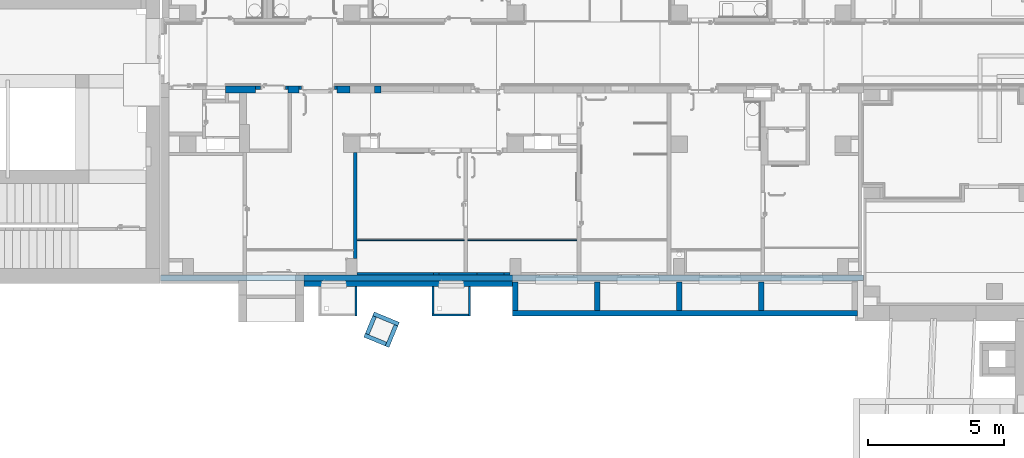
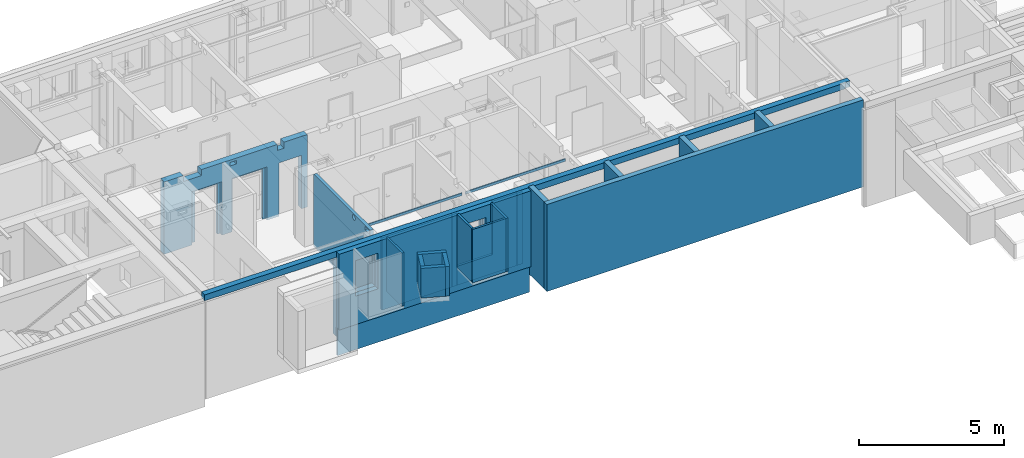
# One storey, part 11 of 84: 27 walls, 20 openings.
"""IFC4 building model written with IfcOpenShell, lengths in metres."""

from ifc_helpers import new_model, entity, si_unit, converted_unit, derived_unit, frame, frame_2d, origin, origin_with_axes, place, context, subcontext, project, spatial, polyline, rectangle, outline, extrude, clip, bounded_halfspace, material, layer, layer_set, layer_usage, element, save


model = new_model("IFC4")

# Units and contexts
model_context = context("Model", 3, precision=1e-05, world=origin())
body_context = subcontext(model_context, "Body", "Model", "MODEL_VIEW")
ifc_project = project(units=[si_unit("LENGTHUNIT", "METRE"), si_unit("AREAUNIT", "SQUARE_METRE"), si_unit("VOLUMEUNIT", "CUBIC_METRE"), si_unit("MASSUNIT", "GRAM", prefix="KILO"), converted_unit("PLANEANGLEUNIT", "DEGREE", entity("IfcPlaneAngleMeasure", 0.0174532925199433), si_unit("PLANEANGLEUNIT", "RADIAN"), dimensions=[0, 0, 0, 0, 0, 0, 0]), derived_unit("THERMALTRANSMITTANCEUNIT", [(si_unit("POWERUNIT", "WATT"), 1), (si_unit("THERMODYNAMICTEMPERATUREUNIT", "KELVIN"), -1), (si_unit("LENGTHUNIT", "METRE"), -2)]), derived_unit("VOLUMETRICFLOWRATEUNIT", [(si_unit("LENGTHUNIT", "METRE"), 3), (converted_unit("TIMEUNIT", "hour", entity("IfcTimeMeasure", 3600.0), si_unit("TIMEUNIT", "SECOND"), dimensions=[0, 0, 1, 0, 0, 0, 0]), -1), (si_unit("LENGTHUNIT", "METRE"), -1)])], contexts=[model_context])

# Site, building, storey
site_placement = place(None, origin())
site = spatial("IfcSite", under=ifc_project, at=site_placement, Name="3. ASŘ", CompositionType="ELEMENT")
building_placement = place(site_placement, origin())
building = spatial("IfcBuilding", under=site, at=building_placement, Name="Pavilon C", CompositionType="ELEMENT")
storey_placement = place(building_placement, frame((0.0, 0.0, -3.3)))
storey = spatial("IfcBuildingStorey", under=building, at=storey_placement, Name="Půdorys 1.PP", CompositionType="ELEMENT", Elevation=-3.3)

# Wall, opening
ifc_material_1 = material(Name="ZELEZOBETONOVÁ KCE")
ifc_layer_1 = layer(ifc_material_1, 0.2)
ifc_layer_set_1 = layer_set([ifc_layer_1])
ifc_layer_usage_1 = layer_usage(ifc_layer_set_1, "AXIS2", "POSITIVE", -0.1)
wall_1_placement = place(storey_placement, frame((20.9, 0.35499999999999, -0.4), z_axis=(0.0, 0.0, 1.0), x_axis=(0.0, -1.0, 0.0)))
wall_1 = element("IfcWall", 1, at=wall_1_placement, inside=storey, material=ifc_layer_usage_1, Name="ZELEZOBETONOVÁ KCE", context=body_context, shape_type="SweptSolid", body=[
    extrude(rectangle(XDim=1.06, YDim=0.2, at=frame_2d((0.53, 0.1), x_axis=(1.0, 0.0))), origin_with_axes(), (0.0, 0.0, 1.0), 3.67),
])
opening_1_placement = place(wall_1_placement, frame((0.78, 0.2, 0.8), z_axis=(0.0, -1.0, 0.0), x_axis=(0.0, 0.0, 1.0)))
element("IfcOpeningElement", 2, at=opening_1_placement, cuts=wall_1, Name="Prostup stěnou", ObjectType="Opening", context=body_context, shape_type="SweptSolid", body=[
    extrude(outline(polyline([(0.0, 0.4), (0.6, 0.4), (0.6, 0.0), (0.0, 0.0), (0.0, 0.4)])), origin_with_axes(), (0.0, 0.0, 1.0), 0.2),
])

ifc_material_2 = material(Name="ZELEZOBETONOVÁ KCE")
ifc_layer_2 = layer(ifc_material_2, 0.2)
ifc_layer_set_2 = layer_set([ifc_layer_2])
ifc_layer_usage_2 = layer_usage(ifc_layer_set_2, "AXIS2", "POSITIVE", -0.1)
wall_2_placement = place(storey_placement, frame((17.9, 0.354999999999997, -0.4), z_axis=(0.0, 0.0, 1.0), x_axis=(0.0, -1.0, 0.0)))
wall_2 = element("IfcWall", 3, at=wall_2_placement, inside=storey, material=ifc_layer_usage_2, Name="ZELEZOBETONOVÁ KCE", context=body_context, shape_type="SweptSolid", body=[
    extrude(rectangle(XDim=1.06, YDim=0.2, at=frame_2d((0.53, 0.1), x_axis=(1.0, 0.0))), origin_with_axes(), (0.0, 0.0, 1.0), 3.67),
])
opening_2_placement = place(wall_2_placement, frame((0.78, 0.2, 0.8), z_axis=(0.0, -1.0, 0.0), x_axis=(0.0, 0.0, 1.0)))
element("IfcOpeningElement", 4, at=opening_2_placement, cuts=wall_2, Name="Prostup stěnou", ObjectType="Opening", context=body_context, shape_type="SweptSolid", body=[
    extrude(outline(polyline([(0.0, 0.4), (0.6, 0.4), (0.6, 0.0), (0.0, 0.0), (0.0, 0.4)])), origin_with_axes(), (0.0, 0.0, 1.0), 0.2),
])

ifc_material_3 = material(Name="ZELEZOBETONOVÁ KCE")
ifc_layer_3 = layer(ifc_material_3, 0.2)
ifc_layer_set_3 = layer_set([ifc_layer_3])
ifc_layer_usage_3 = layer_usage(ifc_layer_set_3, "AXIS2", "POSITIVE", -0.1)
wall_3_placement = place(storey_placement, frame((14.9, 0.354999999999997, -0.4), z_axis=(0.0, 0.0, 1.0), x_axis=(0.0, -1.0, 0.0)))
wall_3 = element("IfcWall", 5, at=wall_3_placement, inside=storey, material=ifc_layer_usage_3, Name="ZELEZOBETONOVÁ KCE", context=body_context, shape_type="SweptSolid", body=[
    extrude(rectangle(XDim=1.06, YDim=0.2, at=frame_2d((0.53, 0.1), x_axis=(1.0, 0.0))), origin_with_axes(), (0.0, 0.0, 1.0), 3.67),
])
opening_3_placement = place(wall_3_placement, frame((0.78, 0.2, 0.8), z_axis=(0.0, -1.0, 0.0), x_axis=(0.0, 0.0, 1.0)))
element("IfcOpeningElement", 6, at=opening_3_placement, cuts=wall_3, Name="Prostup stěnou", ObjectType="Opening", context=body_context, shape_type="SweptSolid", body=[
    extrude(outline(polyline([(0.0, 0.4), (0.6, 0.4), (0.6, 0.0), (0.0, 0.0), (0.0, 0.4)])), origin_with_axes(), (0.0, 0.0, 1.0), 0.2),
])

ifc_material_4 = material(Name="PÓROBETONOVÉ ZDIVO")
ifc_layer_4 = layer(ifc_material_4, 0.1)
ifc_layer_set_4 = layer_set([ifc_layer_4])
ifc_layer_usage_4 = layer_usage(ifc_layer_set_4, "AXIS2", "POSITIVE", 0.0)
wall_4_placement = place(storey_placement, frame((9.20000000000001, 0.600000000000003, -0.1)))
wall_4 = element("IfcWall", 7, at=wall_4_placement, inside=storey, material=ifc_layer_usage_4, Name="PÓROBETONOVÉ ZDIVO", context=body_context, shape_type="SweptSolid", body=[
    extrude(rectangle(XDim=2.375, YDim=0.1, at=frame_2d((1.1875, 0.05), x_axis=(1.0, 0.0))), origin_with_axes(), (0.0, 0.0, 1.0), 3.05),
])
opening_4_placement = place(wall_4_placement, frame((1.4, 0.1, 0.8), z_axis=(0.0, -1.0, 0.0), x_axis=(0.0, 0.0, 1.0)))
element("IfcOpeningElement", 8, at=opening_4_placement, cuts=wall_4, Name="Okenní otvor", ObjectType="Opening", context=body_context, shape_type="SweptSolid", body=[
    extrude(outline(polyline([(0.0, 1.4), (2.25, 1.4), (2.25, 0.0), (0.0, 0.0), (0.0, 1.4)])), origin_with_axes(), (0.0, 0.0, 1.0), 0.1),
])

# Walls
ifc_material_5 = material(Name="ZELEZOBETONOVÁ KCE")
ifc_layer_5 = layer(ifc_material_5, 0.2)
ifc_layer_set_5 = layer_set([ifc_layer_5])
ifc_layer_usage_5 = layer_usage(ifc_layer_set_5, "AXIS2", "POSITIVE", -0.1)
wall_5_placement = place(storey_placement, frame((11.9, 0.354999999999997, -0.4), z_axis=(0.0, 0.0, 1.0), x_axis=(0.0, -1.0, 0.0)))
element("IfcWall", 9, at=wall_5_placement, inside=storey, material=ifc_layer_usage_5, Name="ZELEZOBETONOVÁ KCE", context=body_context, shape_type="SweptSolid", body=[
    extrude(rectangle(XDim=1.06, YDim=0.2, at=frame_2d((0.53, 0.1), x_axis=(1.0, 0.0))), origin_with_axes(), (0.0, 0.0, 1.0), 3.67),
])
ifc_material_6 = material(Name="ZELEZOBETONOVÁ KCE")
ifc_layer_6 = layer(ifc_material_6, 0.2)
ifc_layer_set_6 = layer_set([ifc_layer_6])
ifc_layer_usage_6 = layer_usage(ifc_layer_set_6, "AXIS2", "POSITIVE", 0.0)
wall_6_placement = place(storey_placement, frame((24.525, -0.70500000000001, -0.4), z_axis=(0.0, 0.0, 1.0), x_axis=(-1.0, 5.76313474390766e-16, 0.0)))
element("IfcWall", 10, at=wall_6_placement, inside=storey, material=ifc_layer_usage_6, Name="ZELEZOBETONOVÁ KCE", context=body_context, shape_type="SweptSolid", body=[
    extrude(rectangle(XDim=12.625, YDim=0.2, at=frame_2d((6.3125, 0.1), x_axis=(1.0, 0.0))), origin_with_axes(), (0.0, 0.0, 1.0), 3.67),
])
ifc_material_7 = material(Name="ZELEZOBETONOVÁ KCE")
ifc_layer_7 = layer(ifc_material_7, 0.149999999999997)
ifc_layer_set_7 = layer_set([ifc_layer_7])
ifc_layer_usage_7 = layer_usage(ifc_layer_set_7, "AXIS2", "POSITIVE", 0.0)
wall_7_placement = place(storey_placement, frame((6.76867172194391, -0.886282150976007, 1.7), z_axis=(0.0, 0.0, 1.0), x_axis=(0.924305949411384, -0.381652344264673, 0.0)))
element("IfcWall", 11, at=wall_7_placement, inside=storey, material=ifc_layer_usage_7, Name="ZELEZOBETONOVÁ KCE", context=body_context, shape_type="SweptSolid", body=[
    extrude(rectangle(XDim=1.00000000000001, YDim=0.149999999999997, at=frame_2d((0.500000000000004, 0.0749999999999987), x_axis=(1.0, 0.0))), origin_with_axes(), (0.0, 0.0, 1.0), 1.25),
])
ifc_material_8 = material(Name="ZELEZOBETONOVÁ KCE")
ifc_layer_8 = layer(ifc_material_8, 0.149999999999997)
ifc_layer_set_8 = layer_set([ifc_layer_8])
ifc_layer_usage_8 = layer_usage(ifc_layer_set_8, "AXIS2", "POSITIVE", 0.0)
wall_8_placement = place(storey_placement, frame((7.5543317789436, -1.21068664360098, 1.7), z_axis=(0.0, 0.0, 1.0), x_axis=(-0.381652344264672, -0.924305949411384, 0.0)))
element("IfcWall", 12, at=wall_8_placement, inside=storey, material=ifc_layer_usage_8, Name="ZELEZOBETONOVÁ KCE", context=body_context, shape_type="SweptSolid", body=[
    extrude(rectangle(XDim=0.850000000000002, YDim=0.149999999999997, at=frame_2d((0.425000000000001, 0.0749999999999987), x_axis=(1.0, 0.0))), origin_with_axes(), (0.0, 0.0, 1.0), 1.25),
])
ifc_material_9 = material(Name="ZELEZOBETONOVÁ KCE")
ifc_layer_9 = layer(ifc_material_9, 0.149999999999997)
ifc_layer_set_9 = layer_set([ifc_layer_9])
ifc_layer_usage_9 = layer_usage(ifc_layer_set_9, "AXIS2", "POSITIVE", 0.0)
wall_9_placement = place(storey_placement, frame((7.28717513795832, -1.85770080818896, 1.7), z_axis=(0.0, 0.0, 1.0), x_axis=(-0.924305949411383, 0.381652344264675, 0.0)))
element("IfcWall", 13, at=wall_9_placement, inside=storey, material=ifc_layer_usage_9, Name="ZELEZOBETONOVÁ KCE", context=body_context, shape_type="SweptSolid", body=[
    extrude(rectangle(XDim=0.850000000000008, YDim=0.149999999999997, at=frame_2d((0.425000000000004, 0.0749999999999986), x_axis=(1.0, 0.0))), origin_with_axes(), (0.0, 0.0, 1.0), 1.25),
])
ifc_material_10 = material(Name="ZELEZOBETONOVÁ KCE")
ifc_layer_10 = layer(ifc_material_10, 0.149999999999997)
ifc_layer_set_10 = layer_set([ifc_layer_10])
ifc_layer_usage_10 = layer_usage(ifc_layer_set_10, "AXIS2", "POSITIVE", 0.0)
wall_10_placement = place(storey_placement, frame((6.64016097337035, -1.59054416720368, 1.7), z_axis=(0.0, 0.0, 1.0), x_axis=(0.381652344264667, 0.924305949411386, 0.0)))
element("IfcWall", 14, at=wall_10_placement, inside=storey, material=ifc_layer_usage_10, Name="ZELEZOBETONOVÁ KCE", context=body_context, shape_type="SweptSolid", body=[
    extrude(rectangle(XDim=0.700000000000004, YDim=0.149999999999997, at=frame_2d((0.350000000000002, 0.0749999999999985), x_axis=(1.0, 0.0))), origin_with_axes(), (0.0, 0.0, 1.0), 1.25),
])
ifc_material_11 = material(Name="PÓROBETONOVÉ ZDIVO")
ifc_layer_11 = layer(ifc_material_11, 0.1)
ifc_layer_set_11 = layer_set([ifc_layer_11])
ifc_layer_usage_11 = layer_usage(ifc_layer_set_11, "AXIS2", "POSITIVE", 0.0)
wall_11_placement = place(storey_placement, frame((6.2, 0.600000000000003, -0.1)))
element("IfcWall", 15, at=wall_11_placement, inside=storey, material=ifc_layer_usage_11, Name="PÓROBETONOVÉ ZDIVO", context=body_context, shape_type="SweptSolid", body=[
    extrude(rectangle(XDim=2.8, YDim=0.1, at=frame_2d((1.4, 0.05), x_axis=(1.0, 0.0))), origin_with_axes(), (0.0, 0.0, 1.0), 3.05),
])

# Wall, openings
ifc_material_12 = material(Name="ZDIVO Z CDm")
ifc_layer_12 = layer(ifc_material_12, 0.25)
ifc_layer_set_12 = layer_set([ifc_layer_12])
ifc_layer_usage_12 = layer_usage(ifc_layer_set_12, "AXIS2", "POSITIVE", 0.0)
wall_12_placement = place(storey_placement, frame((7.07500000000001, 7.525, -0.1), z_axis=(0.0, 0.0, 1.0), x_axis=(-1.0, 0.0, 0.0)))
wall_12 = element("IfcWall", 16, at=wall_12_placement, inside=storey, material=ifc_layer_usage_12, Name="ZDIVO Z CDm", context=body_context, shape_type="SweptSolid", body=[
    extrude(rectangle(XDim=5.70500000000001, YDim=0.25, at=frame_2d((2.8525, 0.125), x_axis=(1.0, 0.0))), origin_with_axes(), (0.0, 0.0, 1.0), 3.05),
])
opening_5_placement = place(wall_12_placement, frame((3.40500000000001, 0.0, 0.0), z_axis=(0.0, 1.0, 0.0), x_axis=(0.0, 0.0, 1.0)))
element("IfcOpeningElement", 17, at=opening_5_placement, cuts=wall_12, Name="Dveřní otvor", ObjectType="Opening", context=body_context, shape_type="SweptSolid", body=[
    extrude(outline(polyline([(0.0, 1.2), (2.25, 1.2), (2.25, 0.0), (0.0, 0.0), (0.0, 1.2)])), origin_with_axes(), (0.0, 0.0, 1.0), 0.25),
])
opening_6_placement = place(wall_12_placement, frame((4.22500000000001, 1.72803993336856e-14, 2.8), z_axis=(0.0, 1.0, 0.0), x_axis=(0.0, 0.0, 1.0)))
element("IfcOpeningElement", 18, at=opening_6_placement, cuts=wall_12, Name="ZTI+VZT", ObjectType="Opening", context=body_context, shape_type="SweptSolid", body=[
    extrude(outline(polyline([(0.0, 0.72), (0.25, 0.72), (0.25, 0.0), (0.0, 0.0), (0.0, 0.72)])), origin_with_axes(), (0.0, 0.0, 1.0), 0.25),
])
opening_7_placement = place(wall_12_placement, frame((0.230000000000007, 0.0, 0.0), z_axis=(0.0, 1.0, 0.0), x_axis=(0.0, 0.0, 1.0)))
element("IfcOpeningElement", 19, at=opening_7_placement, cuts=wall_12, Name="Dveřní otvor", ObjectType="Opening", context=body_context, shape_type="SweptSolid", body=[
    extrude(outline(polyline([(0.0, 0.9), (2.25, 0.9), (2.25, 0.0), (0.0, 0.0), (0.0, 0.9)])), origin_with_axes(), (0.0, 0.0, 1.0), 0.25),
])
opening_8_placement = place(wall_12_placement, frame((0.932252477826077, 0.0, 2.8), z_axis=(0.0, 1.0, 0.0), x_axis=(0.0, 0.0, 1.0)))
element("IfcOpeningElement", 20, at=opening_8_placement, cuts=wall_12, Name="VZT", ObjectType="Opening", context=body_context, shape_type="SweptSolid", body=[
    extrude(outline(polyline([(0.0, 0.26), (0.25, 0.26), (0.25, 0.0), (0.0, 0.0), (0.0, 0.26)])), origin_with_axes(), (0.0, 0.0, 1.0), 0.25),
])
opening_9_placement = place(wall_12_placement, frame((2.83000000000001, 4.54747350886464e-15, 2.8), z_axis=(0.0, 1.0, 0.0), x_axis=(0.0, 0.0, 1.0)))
element("IfcOpeningElement", 21, at=opening_9_placement, cuts=wall_12, Name="ELE", ObjectType="Opening", context=body_context, shape_type="SweptSolid", body=[
    extrude(outline(polyline([(0.0, 0.25), (0.15, 0.25), (0.15, 0.0), (0.0, 0.0), (0.0, 0.25)])), origin_with_axes(), (0.0, 0.0, 1.0), 0.25),
])
opening_10_placement = place(wall_12_placement, frame((1.60500000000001, 0.0, 0.0), z_axis=(0.0, 1.0, 0.0), x_axis=(0.0, 0.0, 1.0)))
element("IfcOpeningElement", 22, at=opening_10_placement, cuts=wall_12, Name="Dveřní otvor", ObjectType="Opening", context=body_context, shape_type="SweptSolid", body=[
    extrude(outline(polyline([(0.0, 1.4), (2.25, 1.4), (2.25, 0.0), (0.0, 0.0), (0.0, 1.4)])), origin_with_axes(), (0.0, 0.0, 1.0), 0.25),
])

ifc_material_13 = material(Name="ZELEZOBETONOVÁ KCE")
ifc_layer_13 = layer(ifc_material_13, 0.2)
ifc_material_14 = material(Name="LIGNOPOR")
ifc_layer_14 = layer(ifc_material_14, 0.025)
ifc_material_15 = material(Name="PÓROBETONOVÉ ZDIVO")
ifc_layer_15 = layer(ifc_material_15, 0.08)
ifc_layer_set_13 = layer_set([ifc_layer_13, ifc_layer_14, ifc_layer_15])
ifc_layer_usage_13 = layer_usage(ifc_layer_set_13, "AXIS2", "POSITIVE", 0.0)
wall_13_placement = place(storey_placement, frame((11.9, 0.600000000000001, -1.15), z_axis=(0.0, 0.0, 1.0), x_axis=(-1.0, 2.82359466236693e-16, 0.0)))
wall_13 = element("IfcWall", 23, at=wall_13_placement, inside=storey, material=ifc_layer_usage_13, Name="ZELEZOBETONOVÁ KCE", context=body_context, shape_type="Clipping", body=[
    clip(clip(clip(extrude(rectangle(XDim=7.65, YDim=0.305, at=frame_2d((3.825, 0.1525), x_axis=(1.0, 0.0))), origin_with_axes(), (0.0, 0.0, 1.0), 4.1), bounded_halfspace(frame((3.825, 0.1, 0.750000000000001), z_axis=(0.0, 0.0, 1.0), x_axis=(2.82359466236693e-16, -1.0, 0.0)), True, origin_with_axes(), polyline([(-5.64718932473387e-17, 0.2), (0.0, 0.0), (7.65, 0.0), (7.65, 0.2), (-5.64718932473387e-17, 0.2)]))), bounded_halfspace(frame((3.825, 0.2125, 1.15), z_axis=(0.0, 0.0, 1.0), x_axis=(2.82359466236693e-16, -1.0, 0.0)), True, origin_with_axes(), polyline([(-6.35308799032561e-17, 0.225), (-5.64718932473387e-17, 0.2), (7.65, 0.2), (7.65, 0.225), (-6.35308799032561e-17, 0.225)]))), bounded_halfspace(frame((3.825, 0.265, 1.15), z_axis=(0.0, 0.0, -1.0), x_axis=(1.0, 7.43051226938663e-18, 0.0)), True, origin_with_axes(), polyline([(-6.35308799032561e-17, 0.225), (7.65, 0.225), (7.65, 0.305), (-8.61196372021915e-17, 0.305), (-6.35308799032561e-17, 0.225)]))),
])
opening_11_placement = place(wall_13_placement, frame((7.0, 0.2, 2.35), z_axis=(0.0, -1.0, 0.0), x_axis=(0.0, 0.0, 1.0)))
element("IfcOpeningElement", 24, at=opening_11_placement, cuts=wall_13, Name="Okenní otvor", ObjectType="Opening", context=body_context, shape_type="SweptSolid", body=[
    extrude(outline(polyline([(0.0, 0.9), (1.5, 0.9), (1.5, 0.0), (0.0, 0.0), (0.0, 0.9)])), origin_with_axes(), (0.0, 0.0, 1.0), 0.2),
    extrude(outline(polyline([(0.0, 0.9), (1.5, 0.9), (1.5, 0.0), (0.0, 0.0), (0.0, 0.9)])), frame((0.0, 6.31593542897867e-18, -0.025), z_axis=(0.0, 0.0, 1.0), x_axis=(1.0, 0.0, 0.0)), (0.0, 0.0, 1.0), 0.025),
    extrude(outline(polyline([(0.0, 0.9), (1.5, 0.9), (1.5, 0.0), (0.0, 0.0), (0.0, 0.9)])), frame((0.0, 2.65269288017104e-17, -0.105), z_axis=(0.0, 0.0, 1.0), x_axis=(1.0, 0.0, 0.0)), (0.0, 0.0, 1.0), 0.08),
])
opening_12_placement = place(wall_13_placement, frame((7.0, 0.2, 2.35), z_axis=(0.0, -1.0, 0.0), x_axis=(0.0, 0.0, 1.0)))
element("IfcOpeningElement", 25, at=opening_12_placement, cuts=wall_13, Name="Okenní otvor", ObjectType="Opening", context=body_context, shape_type="SweptSolid", body=[
    extrude(outline(polyline([(0.0, 0.9), (1.5, 0.9), (1.5, 0.0), (0.0, 0.0), (0.0, 0.9)])), origin_with_axes(), (0.0, 0.0, 1.0), 0.2),
    extrude(outline(polyline([(0.0, 0.9), (1.5, 0.9), (1.5, 0.0), (0.0, 0.0), (0.0, 0.9)])), frame((0.0, 6.31593542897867e-18, -0.025), z_axis=(0.0, 0.0, 1.0), x_axis=(1.0, 0.0, 0.0)), (0.0, 0.0, 1.0), 0.025),
    extrude(outline(polyline([(0.0, 0.9), (1.5, 0.9), (1.5, 0.0), (0.0, 0.0), (0.0, 0.9)])), frame((0.0, 2.65269288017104e-17, -0.105), z_axis=(0.0, 0.0, 1.0), x_axis=(1.0, 0.0, 0.0)), (0.0, 0.0, 1.0), 0.08),
])
opening_13_placement = place(wall_13_placement, frame((2.69999999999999, 0.2, 2.35), z_axis=(0.0, -1.0, 0.0), x_axis=(0.0, 0.0, 1.0)))
element("IfcOpeningElement", 26, at=opening_13_placement, cuts=wall_13, Name="Okenní otvor", ObjectType="Opening", context=body_context, shape_type="SweptSolid", body=[
    extrude(outline(polyline([(0.0, 0.9), (1.5, 0.9), (1.5, 0.0), (0.0, 0.0), (0.0, 0.9)])), origin_with_axes(), (0.0, 0.0, 1.0), 0.2),
    extrude(outline(polyline([(0.0, 0.9), (1.5, 0.9), (1.5, 0.0), (0.0, 0.0), (0.0, 0.9)])), frame((0.0, 6.31593542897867e-18, -0.025), z_axis=(0.0, 0.0, 1.0), x_axis=(1.0, 0.0, 0.0)), (0.0, 0.0, 1.0), 0.025),
    extrude(outline(polyline([(0.0, 0.9), (1.5, 0.9), (1.5, 0.0), (0.0, 0.0), (0.0, 0.9)])), frame((0.0, 2.65269288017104e-17, -0.105), z_axis=(0.0, 0.0, 1.0), x_axis=(1.0, 0.0, 0.0)), (0.0, 0.0, 1.0), 0.08),
])

# Wall
ifc_material_16 = material(Name="ZELEZOBETONOVÁ KCE")
ifc_layer_16 = layer(ifc_material_16, 0.200000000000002)
ifc_material_17 = material(Name="LIGNOPOR")
ifc_layer_17 = layer(ifc_material_17, 0.025)
ifc_layer_set_14 = layer_set([ifc_layer_16, ifc_layer_17])
ifc_layer_usage_14 = layer_usage(ifc_layer_set_14, "AXIS2", "POSITIVE", 0.0)
wall_14_placement = place(storey_placement, frame((24.75, 0.599999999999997, 2.95), z_axis=(0.0, 0.0, 1.0), x_axis=(-1.0, 2.82561460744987e-16, 0.0)))
element("IfcWall", 27, at=wall_14_placement, inside=storey, material=ifc_layer_usage_14, context=body_context, shape_type="SweptSolid", body=[
    extrude(outline(polyline([(-25.55, -7.21944532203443e-15), (-25.55, -0.0250000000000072), (-25.75, -0.0250000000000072), (-25.75, -0.225000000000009), (6.35763286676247e-17, -0.225000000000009), (2.03984345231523e-30, -7.21911419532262e-15), (-25.55, -7.21944532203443e-15)])), frame((25.75, 0.225000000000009, 0.0), z_axis=(0.0, 0.0, 1.0), x_axis=(1.0, 0.0, 0.0)), (0.0, 0.0, 1.0), 0.25),
])

# Wall, openings
ifc_material_18 = material(Name="PERIMETR")
ifc_layer_18 = layer(ifc_material_18, 0.2)
ifc_layer_set_15 = layer_set([ifc_layer_18])
ifc_layer_usage_15 = layer_usage(ifc_layer_set_15, "AXIS2", "POSITIVE", 0.0)
wall_15_placement = place(storey_placement, frame((11.9, 0.375000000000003, 0.0), z_axis=(0.0, 0.0, 1.0), x_axis=(-1.0, 0.0, 0.0)))
wall_15 = element("IfcWall", 28, at=wall_15_placement, inside=storey, material=ifc_layer_usage_15, Name="PERIMETR", context=body_context, shape_type="SweptSolid", body=[
    extrude(rectangle(XDim=7.65, YDim=0.2, at=frame_2d((3.825, 0.1), x_axis=(1.0, 0.0))), origin_with_axes(), (0.0, 0.0, 1.0), 3.2),
])
opening_14_placement = place(wall_15_placement, frame((2.69999999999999, 0.2, 1.2), z_axis=(0.0, -1.0, 0.0), x_axis=(0.0, 0.0, 1.0)))
element("IfcOpeningElement", 29, at=opening_14_placement, cuts=wall_15, Name="Okenní otvor", ObjectType="Opening", context=body_context, shape_type="SweptSolid", body=[
    extrude(outline(polyline([(0.0, 0.9), (1.5, 0.9), (1.5, 0.0), (0.0, 0.0), (0.0, 0.9)])), origin_with_axes(), (0.0, 0.0, 1.0), 0.2),
])
opening_15_placement = place(wall_15_placement, frame((7.0, 0.2, 1.2), z_axis=(0.0, -1.0, 0.0), x_axis=(0.0, 0.0, 1.0)))
element("IfcOpeningElement", 30, at=opening_15_placement, cuts=wall_15, Name="Okenní otvor", ObjectType="Opening", context=body_context, shape_type="SweptSolid", body=[
    extrude(outline(polyline([(0.0, 0.9), (1.5, 0.9), (1.5, 0.0), (0.0, 0.0), (0.0, 0.9)])), origin_with_axes(), (0.0, 0.0, 1.0), 0.2),
])

# Walls
ifc_material_19 = material(Name="YTONG 100")
ifc_layer_19 = layer(ifc_material_19, 0.1)
ifc_layer_set_16 = layer_set([ifc_layer_19])
ifc_layer_usage_16 = layer_usage(ifc_layer_set_16, "AXIS2", "POSITIVE", 0.0)
wall_16_placement = place(storey_placement, frame((11.575, 0.600000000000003, -0.1), z_axis=(0.0, 0.0, 1.0), x_axis=(1.0, -7.07384768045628e-15, 0.0)))
element("IfcWall", 31, at=wall_16_placement, inside=storey, material=ifc_layer_usage_16, Name="YTONG 100", context=body_context, shape_type="SweptSolid", body=[
    extrude(rectangle(XDim=0.224999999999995, YDim=0.1, at=frame_2d((0.112499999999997, 0.05), x_axis=(1.0, 0.0))), origin_with_axes(), (0.0, 0.0, 1.0), 3.05),
])
ifc_material_20 = material(Name="POHLEDOVY BETON")
ifc_layer_20 = layer(ifc_material_20, 0.08)
ifc_layer_set_17 = layer_set([ifc_layer_20])
ifc_layer_usage_17 = layer_usage(ifc_layer_set_17, "AXIS2", "POSITIVE", 0.0)
wall_17_placement = place(storey_placement, frame((10.275, 0.175000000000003, 1.0), z_axis=(0.0, 0.0, 1.0), x_axis=(0.0, -1.0, 0.0)))
element("IfcWall", 32, at=wall_17_placement, inside=storey, material=ifc_layer_usage_17, Name="STĚNA ANGLICKÉHO DVORKU", context=body_context, shape_type="SweptSolid", body=[
    extrude(rectangle(XDim=1.08, YDim=0.08, at=frame_2d((0.54, 0.04), x_axis=(1.0, 0.0))), origin_with_axes(), (0.0, 0.0, 1.0), 2.25),
])
ifc_material_21 = material(Name="YTONG 100")
ifc_layer_21 = layer(ifc_material_21, 0.1)
ifc_layer_set_18 = layer_set([ifc_layer_21])
ifc_layer_usage_18 = layer_usage(ifc_layer_set_18, "AXIS2", "POSITIVE", 0.0)
wall_18_placement = place(storey_placement, frame((9.20000000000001, 0.700000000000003, -0.1), z_axis=(0.0, 0.0, 1.0), x_axis=(-1.0, 0.0, 0.0)))
element("IfcWall", 33, at=wall_18_placement, inside=storey, material=ifc_layer_usage_18, Name="YTONG 100", context=body_context, shape_type="SweptSolid", body=[
    extrude(rectangle(XDim=0.2, YDim=0.1, at=frame_2d((0.1, 0.05), x_axis=(1.0, 0.0))), origin_with_axes(), (0.0, 0.0, 1.0), 3.05),
])
ifc_material_22 = material(Name="POHLEDOVY BETON")
ifc_layer_22 = layer(ifc_material_22, 0.08)
ifc_layer_set_19 = layer_set([ifc_layer_22])
ifc_layer_usage_19 = layer_usage(ifc_layer_set_19, "AXIS2", "POSITIVE", 0.0)
wall_19_placement = place(storey_placement, frame((8.94500000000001, -0.904999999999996, 1.0)))
element("IfcWall", 34, at=wall_19_placement, inside=storey, material=ifc_layer_usage_19, Name="STĚNA ANGLICKÉHO DVORKU", context=body_context, shape_type="SweptSolid", body=[
    extrude(rectangle(XDim=1.33, YDim=0.08, at=frame_2d((0.665, 0.04), x_axis=(1.0, 0.0))), origin_with_axes(), (0.0, 0.0, 1.0), 2.25),
])
ifc_material_23 = material(Name="POHLEDOVY BETON")
ifc_layer_23 = layer(ifc_material_23, 0.08)
ifc_layer_set_20 = layer_set([ifc_layer_23])
ifc_layer_usage_20 = layer_usage(ifc_layer_set_20, "AXIS2", "POSITIVE", 0.0)
wall_20_placement = place(storey_placement, frame((8.94500000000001, 0.175000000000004, 1.0), z_axis=(0.0, 0.0, 1.0), x_axis=(0.0, -1.0, 0.0)))
element("IfcWall", 35, at=wall_20_placement, inside=storey, material=ifc_layer_usage_20, Name="STĚNA ANGLICKÉHO DVORKU", context=body_context, shape_type="SweptSolid", body=[
    extrude(rectangle(XDim=1.0, YDim=0.08, at=frame_2d((0.5, 0.04), x_axis=(1.0, 0.0))), origin_with_axes(), (0.0, 0.0, 1.0), 2.25),
])
ifc_material_24 = material(Name="POHLEDOVY BETON")
ifc_layer_24 = layer(ifc_material_24, 0.08)
ifc_layer_set_21 = layer_set([ifc_layer_24])
ifc_layer_usage_21 = layer_usage(ifc_layer_set_21, "AXIS2", "POSITIVE", 0.0)
wall_21_placement = place(storey_placement, frame((6.125, 0.175000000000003, 1.0), z_axis=(0.0, 0.0, 1.0), x_axis=(0.0, -1.0, 0.0)))
element("IfcWall", 36, at=wall_21_placement, inside=storey, material=ifc_layer_usage_21, Name="STĚNA ANGLICKÉHO DVORKU", context=body_context, shape_type="SweptSolid", body=[
    extrude(rectangle(XDim=1.08, YDim=0.08, at=frame_2d((0.54, 0.04), x_axis=(1.0, 0.0))), origin_with_axes(), (0.0, 0.0, 1.0), 2.25),
])

# Wall, opening
ifc_material_25 = material(Name="YTONG 125")
ifc_layer_25 = layer(ifc_material_25, 0.125)
ifc_layer_set_22 = layer_set([ifc_layer_25])
ifc_layer_usage_22 = layer_usage(ifc_layer_set_22, "AXIS2", "POSITIVE", 0.0)
wall_22_placement = place(storey_placement, frame((3.67, 7.525, -0.1), z_axis=(0.0, 0.0, 1.0), x_axis=(-1.0, 0.0, 0.0)))
wall_22 = element("IfcWall", 37, at=wall_22_placement, inside=storey, material=ifc_layer_usage_22, Name="YTONG 125", context=body_context, shape_type="SweptSolid", body=[
    extrude(rectangle(XDim=1.2, YDim=0.125, at=frame_2d((0.6, 0.0625), x_axis=(1.0, 0.0))), origin_with_axes(), (0.0, 0.0, 1.0), 2.25),
])
opening_16_placement = place(wall_22_placement, frame((1.0, 0.125, 0.0), z_axis=(0.0, -1.0, 0.0), x_axis=(0.0, 0.0, 1.0)))
element("IfcOpeningElement", 38, at=opening_16_placement, cuts=wall_22, Name="Dveřní otvor", ObjectType="Opening", context=body_context, shape_type="SweptSolid", body=[
    extrude(outline(polyline([(0.0, 0.9), (2.12, 0.9), (2.12, 0.0), (0.0, 0.0), (0.0, 0.9)])), origin_with_axes(), (0.0, 0.0, 1.0), 0.125),
])

ifc_material_26 = material(Name="YTONG 125")
ifc_layer_26 = layer(ifc_material_26, 0.125)
ifc_layer_set_23 = layer_set([ifc_layer_26])
ifc_layer_usage_23 = layer_usage(ifc_layer_set_23, "AXIS2", "POSITIVE", 0.0)
wall_23_placement = place(storey_placement, frame((5.47, 7.525, -0.1), z_axis=(0.0, 0.0, 1.0), x_axis=(-1.0, 0.0, 0.0)))
wall_23 = element("IfcWall", 39, at=wall_23_placement, inside=storey, material=ifc_layer_usage_23, Name="YTONG 125", context=body_context, shape_type="SweptSolid", body=[
    extrude(rectangle(XDim=1.4, YDim=0.125, at=frame_2d((0.7, 0.0625), x_axis=(1.0, 0.0))), origin_with_axes(), (0.0, 0.0, 1.0), 2.25),
])
opening_17_placement = place(wall_23_placement, frame((0.1, 0.0, 0.0), z_axis=(0.0, 1.0, 0.0), x_axis=(0.0, 0.0, 1.0)))
element("IfcOpeningElement", 40, at=opening_17_placement, cuts=wall_23, Name="Dveřní otvor", ObjectType="Opening", context=body_context, shape_type="SweptSolid", body=[
    extrude(outline(polyline([(0.0, 1.2), (2.12, 1.2), (2.12, 0.0), (0.0, 0.0), (0.0, 1.2)])), origin_with_axes(), (0.0, 0.0, 1.0), 0.125),
])

ifc_material_27 = material(Name="YTONG 100")
ifc_layer_27 = layer(ifc_material_27, 0.1)
ifc_layer_set_24 = layer_set([ifc_layer_27])
ifc_layer_usage_24 = layer_usage(ifc_layer_set_24, "AXIS2", "POSITIVE", 0.0)
wall_24_placement = place(storey_placement, frame((9.20000000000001, 0.600000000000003, 0.7)))
wall_24 = element("IfcWall", 41, at=wall_24_placement, inside=storey, material=ifc_layer_usage_24, Name="YTONG 100", context=body_context, shape_type="SweptSolid", body=[
    extrude(rectangle(XDim=1.4, YDim=0.1, at=frame_2d((0.7, 0.05), x_axis=(1.0, 0.0))), origin_with_axes(), (0.0, 0.0, 1.0), 2.25),
])
opening_18_placement = place(wall_24_placement, frame((0.9, 0.1, 0.5), z_axis=(0.0, -1.0, 0.0), x_axis=(0.0, 0.0, 1.0)))
element("IfcOpeningElement", 42, at=opening_18_placement, cuts=wall_24, Name="Okenní otvor", ObjectType="Opening", context=body_context, shape_type="SweptSolid", body=[
    extrude(outline(polyline([(0.0, 0.9), (1.75, 0.9), (1.75, 0.0), (0.0, 0.0), (0.0, 0.9)])), origin_with_axes(), (0.0, 0.0, 1.0), 0.1),
])

# Walls
ifc_material_28 = material(Name="SDK SVISLA CAST PODHLEDU")
ifc_layer_28 = layer(ifc_material_28, 0.0400000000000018)
ifc_layer_set_25 = layer_set([ifc_layer_28])
ifc_layer_usage_25 = layer_usage(ifc_layer_set_25, "AXIS2", "POSITIVE", 0.0)
wall_25_placement = place(storey_placement, frame((10.25, 1.86, 2.6)))
element("IfcWall", 43, at=wall_25_placement, inside=storey, material=ifc_layer_usage_25, Name="SDK SVISLA CAST PODHLEDU", context=body_context, shape_type="SweptSolid", body=[
    extrude(rectangle(XDim=4.0, YDim=0.0400000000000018, at=frame_2d((2.0, 0.0200000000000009), x_axis=(1.0, 0.0))), origin_with_axes(), (0.0, 0.0, 1.0), 0.1),
])
ifc_material_29 = material(Name="SDK SVISLA CAST PODHLEDU")
ifc_layer_29 = layer(ifc_material_29, 0.0400000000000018)
ifc_layer_set_26 = layer_set([ifc_layer_29])
ifc_layer_usage_26 = layer_usage(ifc_layer_set_26, "AXIS2", "POSITIVE", 0.0)
wall_26_placement = place(storey_placement, frame((10.125, 1.9, 2.6), z_axis=(0.0, 0.0, 1.0), x_axis=(-1.0, 0.0, 0.0)))
element("IfcWall", 44, at=wall_26_placement, inside=storey, material=ifc_layer_usage_26, Name="SDK SVISLA CAST PODHLEDU", context=body_context, shape_type="SweptSolid", body=[
    extrude(rectangle(XDim=3.925, YDim=0.0400000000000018, at=frame_2d((1.9625, 0.0200000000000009), x_axis=(1.0, 0.0))), origin_with_axes(), (0.0, 0.0, 1.0), 0.1),
])

# Wall, openings
ifc_material_30 = material(Name="SDK - 1 KCE + DVOJITÉ OPLÁŠTĚNÍ")
ifc_layer_30 = layer(ifc_material_30, 0.125)
ifc_layer_set_27 = layer_set([ifc_layer_30])
ifc_layer_usage_27 = layer_usage(ifc_layer_set_27, "AXIS2", "POSITIVE", 0.0)
wall_27_placement = place(storey_placement, frame((6.2, 1.2, -0.1), z_axis=(0.0, 0.0, 1.0), x_axis=(0.0, 1.0, 0.0)))
wall_27 = element("IfcWall", 45, at=wall_27_placement, inside=storey, material=ifc_layer_usage_27, Name="SDK - 1 KCE + DVOJITÉ OPLÁŠTĚNÍ", context=body_context, shape_type="SweptSolid", body=[
    extrude(rectangle(XDim=3.9, YDim=0.125, at=frame_2d((1.95, 0.0625), x_axis=(1.0, 0.0))), origin_with_axes(), (0.0, 0.0, 1.0), 3.05),
])
opening_19_placement = place(wall_27_placement, frame((0.361971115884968, 0.125, 2.85), z_axis=(0.0, -1.0, 0.0), x_axis=(0.0, 0.0, 1.0)))
element("IfcOpeningElement", 46, at=opening_19_placement, cuts=wall_27, Name="UT", ObjectType="Opening", context=body_context, shape_type="SweptSolid", body=[
    extrude(outline(polyline([(0.0, 0.3), (0.15, 0.3), (0.15, 0.0), (0.0, 0.0), (0.0, 0.3)])), origin_with_axes(), (0.0, 0.0, 1.0), 0.125),
])
opening_20_placement = place(wall_27_placement, frame((1.23497111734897, 0.125, 2.8), z_axis=(0.0, -1.0, 0.0), x_axis=(0.0, 0.0, 1.0)))
element("IfcOpeningElement", 47, at=opening_20_placement, cuts=wall_27, Name="VZT", ObjectType="Opening", context=body_context, shape_type="SweptSolid", body=[
    extrude(outline(polyline([(0.104999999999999, 0.0), (0.0940245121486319, 0.000575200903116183), (0.0831692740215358, 0.00229450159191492), (0.0725532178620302, 0.00513906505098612), (0.0622926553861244, 0.00907772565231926), (0.0525000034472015, 0.0140673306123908), (0.0432825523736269, 0.0200532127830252), (0.0347412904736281, 0.0269697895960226), (0.0269697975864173, 0.0347412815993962), (0.020053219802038, 0.043282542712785), (0.0140673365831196, 0.0524999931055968), (0.0090777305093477, 0.0622926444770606), (0.00513906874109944, 0.0725532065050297), (0.00229450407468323, 0.0831692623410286), (0.000575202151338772, 0.0940245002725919), (0.0, 0.104999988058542), (0.000575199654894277, 0.115975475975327), (0.00229449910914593, 0.126830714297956), (0.00513906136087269, 0.137446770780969), (0.00907772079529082, 0.147707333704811), (0.0140673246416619, 0.157499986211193), (0.0200532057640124, 0.166717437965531), (0.0269697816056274, 0.175258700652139), (0.0347412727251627, 0.183030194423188), (0.043282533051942, 0.18994677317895), (0.0524999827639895, 0.195932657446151), (0.0622926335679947, 0.200922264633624), (0.0725531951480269, 0.204860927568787), (0.0831692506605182, 0.207705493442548), (0.094024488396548, 0.209424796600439), (0.104999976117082, 0.21), (0.115975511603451, 0.209424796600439), (0.12683074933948, 0.207705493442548), (0.137446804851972, 0.204860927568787), (0.147707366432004, 0.200922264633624), (0.157500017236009, 0.195932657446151), (0.166717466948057, 0.18994677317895), (0.175258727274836, 0.183030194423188), (0.183030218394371, 0.175258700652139), (0.189946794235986, 0.166717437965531), (0.195932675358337, 0.157499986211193), (0.200922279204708, 0.147707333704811), (0.204860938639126, 0.137446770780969), (0.207705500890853, 0.126830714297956), (0.209424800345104, 0.115975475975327), (0.209999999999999, 0.104999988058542), (0.20942479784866, 0.0940245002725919), (0.207705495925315, 0.0831692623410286), (0.204860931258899, 0.0725532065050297), (0.200922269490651, 0.0622926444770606), (0.195932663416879, 0.0524999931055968), (0.189946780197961, 0.043282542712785), (0.183030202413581, 0.0347412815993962), (0.175258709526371, 0.0269697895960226), (0.166717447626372, 0.0200532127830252), (0.157499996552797, 0.0140673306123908), (0.147707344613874, 0.00907772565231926), (0.137446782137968, 0.00513906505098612), (0.126830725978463, 0.00229450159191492), (0.115975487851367, 0.000575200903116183), (0.104999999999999, 0.0)])), origin_with_axes(), (0.0, 0.0, 1.0), 0.125),
])

save(model, "model.ifc")
